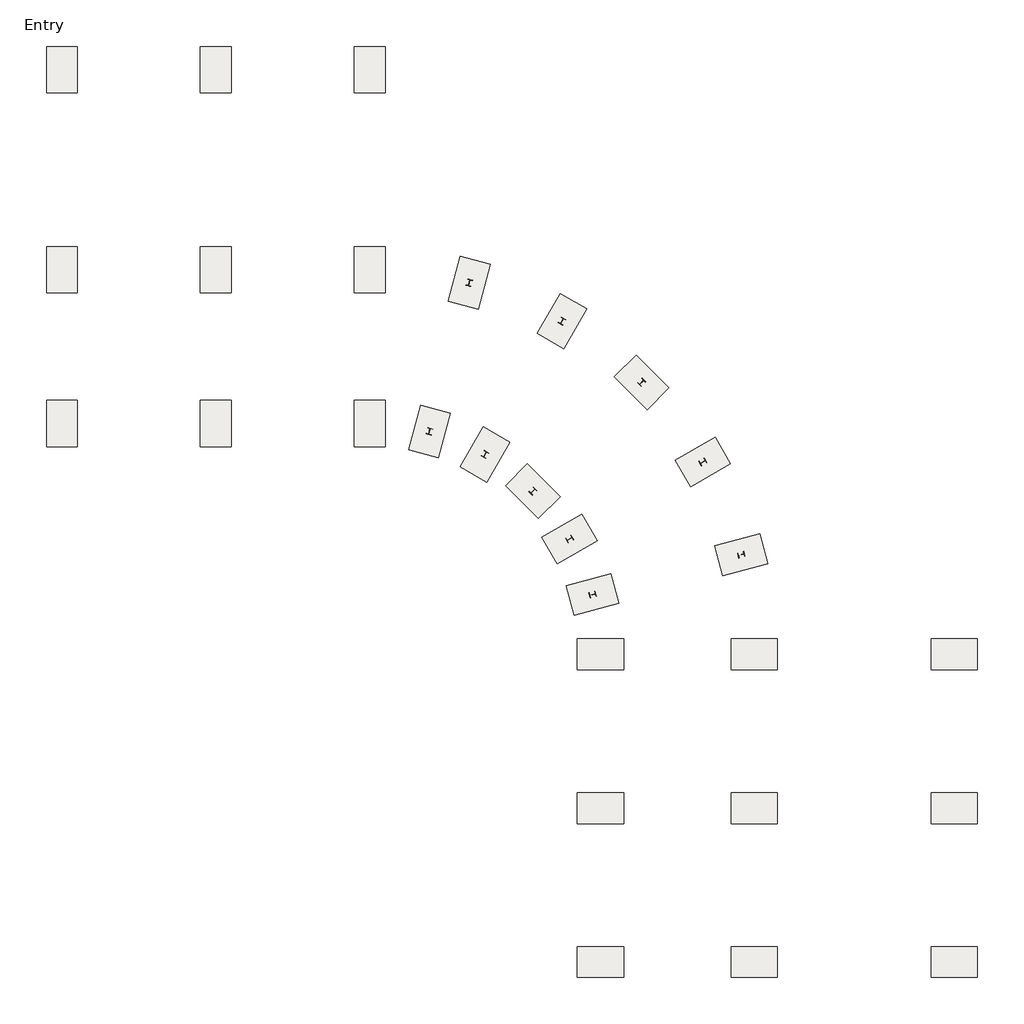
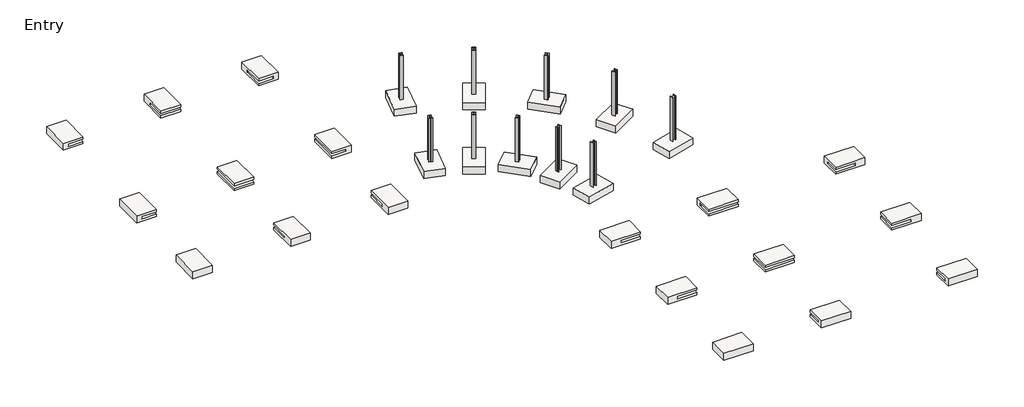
# One storey: 28 slabs, 10 columns.
"""IFC4 building model written with IfcOpenShell, lengths in millimetres."""

import ifcopenshell
import ifcopenshell.guid

model = None  # the IFC model being written
_history = None  # IfcOwnerHistory: only IFC2X3 demands one
_inside = {}  # id of a spatial element -> (the spatial element, [elements in it])
_under = {}  # id of a project, library or spatial element -> (it, [spatial elements below it])
_declared = {}  # id of a project -> (the project, [libraries it declares])
_typed = {}  # id of a type object -> (the type object, [elements of that type])
_made_of = {}  # id of a material, layer set ... -> (it, [elements and type objects made of it])


def new_model(schema):
    """Start an empty IFC model of exactly this schema.

    Asked for "IFC4X3", IfcOpenShell would pick the latest addendum, in which some entities
    have other attributes; the version numbers below select the first issue.
    IFC2X3 requires an IfcOwnerHistory on every rooted entity: one is made here for all.
    """
    global model, _history
    if schema == "IFC4X3":
        model = ifcopenshell.file(schema_version=(4, 3, 0, 0))
    else:
        model = ifcopenshell.file(schema=schema)
    _inside.clear()
    _under.clear()
    _declared.clear()
    _typed.clear()
    _made_of.clear()
    _history = None
    if model.schema == "IFC2X3":
        org = make("IfcOrganization", Name="unknown")
        user = make(
            "IfcPersonAndOrganization",
            ThePerson=make("IfcPerson", FamilyName="unknown"),
            TheOrganization=org,
        )
        app = make(
            "IfcApplication",
            ApplicationDeveloper=org,
            Version="unknown",
            ApplicationFullName="unknown",
            ApplicationIdentifier="unknown",
        )
        _history = make(
            "IfcOwnerHistory",
            OwningUser=user,
            OwningApplication=app,
            ChangeAction="ADDED",
            CreationDate=0,
        )
    return model


def make(cls, **values):
    """One entity of the class cls with the attributes given. An attribute that is None is left unset."""
    return model.create_entity(
        cls, **{name: value for name, value in values.items() if value is not None}
    )


def rooted(cls, **values):
    """An entity with a GlobalId (a new one), such as an element, a storey or a relation."""
    return make(cls, GlobalId=ifcopenshell.guid.new(), OwnerHistory=_history, **values)


def si_unit(unit_type, name, prefix=None):
    """IfcSIUnit, for example si_unit("LENGTHUNIT", "METRE", prefix="MILLI")."""
    return make("IfcSIUnit", UnitType=unit_type, Prefix=prefix, Name=name)


def assignment(units):
    """IfcUnitAssignment: the units of a project."""
    return None if units is None else make("IfcUnitAssignment", Units=units)


def point(xyz):
    """IfcCartesianPoint."""
    return None if xyz is None else make("IfcCartesianPoint", Coordinates=xyz)


def direction(xyz):
    """IfcDirection."""
    return None if xyz is None else make("IfcDirection", DirectionRatios=xyz)


def frame(location, z_axis=None, x_axis=None):
    """IfcAxis2Placement3D, a coordinate frame: its origin and axes. An axis left out is left unset."""
    return make(
        "IfcAxis2Placement3D",
        Location=point(location),
        Axis=direction(z_axis),
        RefDirection=direction(x_axis),
    )


def frame_2d(location, x_axis=None):
    """IfcAxis2Placement2D, a coordinate frame in the plane: its origin and x axis."""
    return make(
        "IfcAxis2Placement2D", Location=point(location), RefDirection=direction(x_axis)
    )


def origin():
    """The frame at (0, 0, 0) with its axes left unset."""
    return frame((0.0, 0.0, 0.0))


def origin_with_axes():
    """The frame at (0, 0, 0) with the z axis (0, 0, 1) and the x axis (1, 0, 0) written out."""
    return frame((0.0, 0.0, 0.0), z_axis=(0.0, 0.0, 1.0), x_axis=(1.0, 0.0, 0.0))


def place(relative_to, where):
    """IfcLocalPlacement: puts the frame where relative to a parent placement (None: the world)."""
    return make(
        "IfcLocalPlacement", PlacementRelTo=relative_to, RelativePlacement=where
    )


def context(
    kind, dimensions, precision=None, world=None, true_north=None, identifier=None
):
    """IfcGeometricRepresentationContext, for example the 3D "Model" context."""
    return make(
        "IfcGeometricRepresentationContext",
        ContextIdentifier=identifier,
        ContextType=kind,
        CoordinateSpaceDimension=dimensions,
        Precision=precision,
        WorldCoordinateSystem=world,
        TrueNorth=true_north,
    )


def project(units=None, contexts=None):
    """IfcProject with its units and contexts."""
    return rooted(
        "IfcProject",
        Name="project",
        RepresentationContexts=contexts,
        UnitsInContext=assignment(units),
    )


def spatial(cls, under=None, at=None, **own):
    """A site, building, storey or space (cls), placed at a placement, below another one or the project."""
    s = rooted(cls, ObjectPlacement=at, **own)
    if under is not None:
        _under.setdefault(under.id(), (under, []))[1].append(s)
    return s


def polyline(points):
    """IfcPolyline through the points."""
    return make("IfcPolyline", Points=[point(p) for p in points])


def circle_curve(where, radius):
    """IfcCircle in the frame where."""
    return make("IfcCircle", Position=where, Radius=radius)


def trimmed(basis, trim1, trim2, sense, master):
    """IfcTrimmedCurve: the piece of a basis curve between two trims."""
    return make(
        "IfcTrimmedCurve",
        BasisCurve=basis,
        Trim1=trim1,
        Trim2=trim2,
        SenseAgreement=sense,
        MasterRepresentation=master,
    )


def segment(curve, same_sense, transition):
    """IfcCompositeCurveSegment."""
    return make(
        "IfcCompositeCurveSegment",
        Transition=transition,
        SameSense=same_sense,
        ParentCurve=curve,
    )


def composite_curve(segments, self_intersect=None):
    """IfcCompositeCurve: segments joined end to end."""
    return make("IfcCompositeCurve", Segments=segments, SelfIntersect=self_intersect)


def outline(outer, holes=None, kind="AREA"):
    """IfcArbitraryClosedProfileDef: a profile drawn as a closed curve; with holes, ...WithVoids."""
    if holes is None:
        return make("IfcArbitraryClosedProfileDef", ProfileType=kind, OuterCurve=outer)
    return make(
        "IfcArbitraryProfileDefWithVoids",
        ProfileType=kind,
        OuterCurve=outer,
        InnerCurves=holes,
    )


def extrude(swept, where, along, depth):
    """IfcExtrudedAreaSolid: the profile swept, set in the frame where, extruded along a direction by depth."""
    return make(
        "IfcExtrudedAreaSolid",
        SweptArea=swept,
        Position=where,
        ExtrudedDirection=direction(along),
        Depth=depth,
    )


def faces_of(points, faces, orient=None, outer=None):
    """IfcFace entities. A face is a list of loops; a loop is a list of indices into points, from 0.

    orient and outer hold one flag for each loop. By default every Orientation is true, the
    first loop of a face is its IfcFaceOuterBound and the others are IfcFaceBound.
    """
    made = []
    for i, loops in enumerate(faces):
        bounds = []
        for j, loop in enumerate(loops):
            is_outer = j == 0 if outer is None else outer[i][j]
            bounds.append(
                make(
                    "IfcFaceOuterBound" if is_outer else "IfcFaceBound",
                    Bound=make("IfcPolyLoop", Polygon=[points[k] for k in loop]),
                    Orientation=True if orient is None else orient[i][j],
                )
            )
        made.append(make("IfcFace", Bounds=bounds))
    return made


def faceted_brep(points, faces, orient=None, outer=None, voids=None):
    """IfcFacetedBrep: a solid bounded by flat faces; with voids (closed shells), ...WithVoids."""
    shared = [point(p) for p in points]
    hull = make("IfcClosedShell", CfsFaces=faces_of(shared, faces, orient, outer))
    if voids is None:
        return make("IfcFacetedBrep", Outer=hull)
    return make(
        "IfcFacetedBrepWithVoids",
        Outer=hull,
        Voids=[
            make(cls, CfsFaces=faces_of(shared, fs, o, b)) for cls, fs, o, b in voids
        ],
    )


def shape(context_of_items, identifier, shape_type, items):
    """IfcShapeRepresentation: the items that make up one representation, for example the "Body"."""
    return make(
        "IfcShapeRepresentation",
        ContextOfItems=context_of_items,
        RepresentationIdentifier=identifier,
        RepresentationType=shape_type,
        Items=items,
    )


def source(mapping_origin, context_of_items, identifier, shape_type, items):
    """IfcRepresentationMap: a shape defined once, which mapped items show again and again."""
    return make(
        "IfcRepresentationMap",
        MappingOrigin=mapping_origin,
        MappedRepresentation=shape(context_of_items, identifier, shape_type, items),
    )


def transform(
    local_origin,
    x_axis=None,
    y_axis=None,
    z_axis=None,
    scale=None,
    scale2=None,
    scale3=None,
    uniform=True,
):
    """IfcCartesianTransformationOperator3D, or its non-uniform kind. x_axis, y_axis, z_axis: its Axis1, 2, 3."""
    if uniform:
        return make(
            "IfcCartesianTransformationOperator3D",
            Axis1=direction(x_axis),
            Axis2=direction(y_axis),
            LocalOrigin=point(local_origin),
            Scale=scale,
            Axis3=direction(z_axis),
        )
    return make(
        "IfcCartesianTransformationOperator3DnonUniform",
        Axis1=direction(x_axis),
        Axis2=direction(y_axis),
        LocalOrigin=point(local_origin),
        Scale=scale,
        Axis3=direction(z_axis),
        Scale2=scale2,
        Scale3=scale3,
    )


def mapped(mapping_source, mapping_target):
    """IfcMappedItem: shows the shape of a source again, moved by a transform."""
    return make(
        "IfcMappedItem", MappingSource=mapping_source, MappingTarget=mapping_target
    )


def made_of(thing, what):
    """Note that an element or type object is made of a material, layer set ...; save() writes the relation."""
    if what is not None:
        _made_of.setdefault(what.id(), (what, []))[1].append(thing)
    return thing


def element(
    cls,
    number,
    at=None,
    inside=None,
    cuts=None,
    type_object=None,
    material=None,
    context=None,
    identifier="Body",
    shape_type=None,
    held_by="IfcProductDefinitionShape",
    body=None,
    shapes=None,
    **own,
):
    """One element of the class cls, such as IfcWall. Its Tag is "e" and its number.

    at: its placement. inside: the storey or other place that contains it. cuts: it is an
    opening in that element (IfcRelVoidsElement). A single representation is given by context,
    identifier, shape_type and body (its items); several are given by shapes. held_by: the class
    of the entity that holds the representations. save() writes the other relations.
    """
    e = rooted(cls, Tag="e%d" % number, ObjectPlacement=at, **own)
    if body is not None:
        shapes = [shape(context, identifier, shape_type, body)]
    if shapes is not None:
        e.Representation = make(held_by, Representations=shapes)
    if inside is not None:
        _inside.setdefault(inside.id(), (inside, []))[1].append(e)
    if cuts is not None:
        rooted(
            "IfcRelVoidsElement", RelatingBuildingElement=cuts, RelatedOpeningElement=e
        )
    if type_object is not None:
        _typed.setdefault(type_object.id(), (type_object, []))[1].append(e)
    return made_of(e, material)


def aggregate(whole, parts):
    """IfcRelAggregates: a whole, such as a stair, and the parts it consists of."""
    return rooted("IfcRelAggregates", RelatingObject=whole, RelatedObjects=parts)


def save(model, path):
    """Write the relations noted so far, then the file.

    IfcRelAggregates (storeys below a building ...), IfcRelContainedInSpatialStructure (elements
    in a storey), IfcRelDefinesByType, IfcRelAssociatesMaterial and IfcRelDeclares: one each for
    every whole, place, type object, material and project.
    """
    for whole, parts in _under.values():
        aggregate(whole, parts)
    for where, things in _inside.values():
        rooted(
            "IfcRelContainedInSpatialStructure",
            RelatedElements=things,
            RelatingStructure=where,
        )
    for kind, things in _typed.values():
        rooted("IfcRelDefinesByType", RelatedObjects=things, RelatingType=kind)
    for what, things in _made_of.values():
        rooted("IfcRelAssociatesMaterial", RelatedObjects=things, RelatingMaterial=what)
    for by, libraries in _declared.values():
        rooted("IfcRelDeclares", RelatingContext=by, RelatedDefinitions=libraries)
    model.write(path)


def w_shapes_column_w10x33_4bcec04c(model_context):
    return source(origin(), model_context, "Body", "SweptSolid", [
        extrude(outline(composite_curve([segment(polyline([(101.092, 123.571), (101.092, 112.522), (16.383, 112.522)]), True, "CONTINUOUS"), segment(trimmed(circle_curve(frame_2d((16.383, 99.822)), 12.7), [point((16.383, 112.522))], [point((3.683, 99.822))], True, "CARTESIAN"), True, "CONTINUOUS"), segment(polyline([(3.683, 99.822), (3.683, -99.822)]), True, "CONTINUOUS"), segment(trimmed(circle_curve(frame_2d((16.383, -99.822)), 12.7), [point((3.683, -99.822))], [point((16.383, -112.522))], True, "CARTESIAN"), True, "CONTINUOUS"), segment(polyline([(16.383, -112.522), (101.092, -112.522), (101.092, -123.571), (-101.092, -123.571), (-101.092, -112.522), (-16.383, -112.522)]), True, "CONTINUOUS"), segment(trimmed(circle_curve(frame_2d((-16.383, -99.822)), 12.7), [point((-16.383, -112.522))], [point((-3.683, -99.822))], True, "CARTESIAN"), True, "CONTINUOUS"), segment(polyline([(-3.683, -99.822), (-3.683, 99.822)]), True, "CONTINUOUS"), segment(trimmed(circle_curve(frame_2d((-16.383, 99.822)), 12.7), [point((-3.683, 99.822))], [point((-16.383, 112.522))], True, "CARTESIAN"), True, "CONTINUOUS"), segment(polyline([(-16.383, 112.522), (-101.092, 112.522), (-101.092, 123.571), (101.092, 123.571)]), True, "CONTINUOUS")], self_intersect=False)), origin_with_axes(), (0.0, 0.0, 1.0), 2921.0),
    ])


def slab_5ba74754(model_context):
    return source(origin(), model_context, "Body", "SweptSolid", [
        extrude(outline(polyline([(609.6, 914.4), (609.6, -914.4), (-609.6, -914.4), (-609.6, 914.4), (609.6, 914.4)])), frame((0.0, 0.0, -457.2), z_axis=(0.0, 0.0, 1.0), x_axis=(1.0, 0.0, 0.0)), (0.0, 0.0, 1.0), 457.2),
    ])


model = new_model("IFC4")

# Units and contexts
model_context = context("Model", 3, world=origin())
ifc_project = project(units=[si_unit("LENGTHUNIT", "METRE", prefix="MILLI")], contexts=[model_context])

# Site, building, storey
site = spatial("IfcSite", under=ifc_project)
building = spatial("IfcBuilding", under=site)
storey = spatial("IfcBuildingStorey", under=building, Name="Entry", Elevation=0.0)

# Columns
placement = place(None, origin())
w_shapes_column_w10x33_shape = w_shapes_column_w10x33_4bcec04c(model_context)
element("IfcColumn", 1, ObjectType="W Shapes-Column : W10X33", at=placement, inside=storey, context=model_context, shape_type="MappedRepresentation", body=[
    mapped(w_shapes_column_w10x33_shape, transform((-17670.6099902, -10490.6552287, 0.0), x_axis=(-0.25881904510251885, 0.9659258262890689, 0.0), y_axis=(-0.9659258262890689, -0.25881904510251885, 0.0), z_axis=(0.0, 0.0, 1.0))),
])
element("IfcColumn", 2, ObjectType="W Shapes-Column : W10X33", at=placement, inside=storey, context=model_context, shape_type="MappedRepresentation", body=[
    mapped(w_shapes_column_w10x33_shape, transform((-11782.3261532, -8912.8943298, 0.0), x_axis=(-0.25881904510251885, 0.9659258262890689, 0.0), y_axis=(-0.9659258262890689, -0.25881904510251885, 0.0), z_axis=(0.0, 0.0, 1.0))),
])
element("IfcColumn", 3, ObjectType="W Shapes-Column : W10X33", at=placement, inside=storey, context=model_context, shape_type="MappedRepresentation", body=[
    mapped(w_shapes_column_w10x33_shape, transform((-18584.0994536, -8285.2965771, 0.0), x_axis=(-0.4999999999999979, 0.8660254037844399, 0.0), y_axis=(-0.8660254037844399, -0.4999999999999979, 0.0), z_axis=(0.0, 0.0, 1.0))),
])
element("IfcColumn", 4, ObjectType="W Shapes-Column : W10X33", at=placement, inside=storey, context=model_context, shape_type="MappedRepresentation", body=[
    mapped(w_shapes_column_w10x33_shape, transform((-13304.8085921, -5237.2965771, 0.0), x_axis=(-0.4999999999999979, 0.8660254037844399, 0.0), y_axis=(-0.8660254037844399, -0.4999999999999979, 0.0), z_axis=(0.0, 0.0, 1.0))),
])
element("IfcColumn", 5, ObjectType="W Shapes-Column : W10X33", at=placement, inside=storey, context=model_context, shape_type="MappedRepresentation", body=[
    mapped(w_shapes_column_w10x33_shape, transform((-20037.2513386, -6391.5121699, 0.0), x_axis=(0.7071067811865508, -0.7071067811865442, 0.0), y_axis=(0.7071067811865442, 0.7071067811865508, 0.0), z_axis=(0.0, 0.0, 1.0))),
])
element("IfcColumn", 6, ObjectType="W Shapes-Column : W10X33", at=placement, inside=storey, context=model_context, shape_type="MappedRepresentation", body=[
    mapped(w_shapes_column_w10x33_shape, transform((-15726.7284005, -2080.9892318, 0.0), x_axis=(0.7071067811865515, -0.7071067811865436, 0.0), y_axis=(0.7071067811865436, 0.7071067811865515, 0.0), z_axis=(0.0, 0.0, 1.0))),
])
element("IfcColumn", 7, ObjectType="W Shapes-Column : W10X33", at=placement, inside=storey, context=model_context, shape_type="MappedRepresentation", body=[
    mapped(w_shapes_column_w10x33_shape, transform((-21931.0357458, -4938.3602849, 0.0), x_axis=(0.8660254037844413, -0.49999999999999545, 0.0), y_axis=(0.49999999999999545, 0.8660254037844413, 0.0), z_axis=(0.0, 0.0, 1.0))),
])
element("IfcColumn", 8, ObjectType="W Shapes-Column : W10X33", at=placement, inside=storey, context=model_context, shape_type="MappedRepresentation", body=[
    mapped(w_shapes_column_w10x33_shape, transform((-18883.0357458, 340.9305766, 0.0), x_axis=(0.8660254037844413, -0.49999999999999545, 0.0), y_axis=(0.49999999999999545, 0.8660254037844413, 0.0), z_axis=(0.0, 0.0, 1.0))),
])
element("IfcColumn", 9, ObjectType="W Shapes-Column : W10X33", at=placement, inside=storey, context=model_context, shape_type="MappedRepresentation", body=[
    mapped(w_shapes_column_w10x33_shape, transform((-24136.3943974, -4024.8708215, 0.0), x_axis=(0.9659258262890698, -0.25881904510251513, 0.0), y_axis=(0.25881904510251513, 0.9659258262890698, 0.0), z_axis=(0.0, 0.0, 1.0))),
])
element("IfcColumn", 10, ObjectType="W Shapes-Column : W10X33", at=placement, inside=storey, context=model_context, shape_type="MappedRepresentation", body=[
    mapped(w_shapes_column_w10x33_shape, transform((-22558.6334985, 1863.4130155, 0.0), x_axis=(0.9659258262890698, -0.25881904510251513, 0.0), y_axis=(0.25881904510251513, 0.9659258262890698, 0.0), z_axis=(0.0, 0.0, 1.0))),
])

# Slabs
element("IfcSlab", 11, ObjectType="Footing-Rectangular : 72\" x 48\" x 18\"", at=placement, inside=storey, context=model_context, shape_type="Brep", body=[
    faceted_brep([(-25893.4357458, 11221.9034229, -1676.4), (-27112.6357458, 11221.9034229, -1676.4), (-27112.6357458, 9393.1034229, -1676.4), (-25893.4357458, 9393.1034229, -1676.4), (-25893.4357458, 11221.9034229, -2133.6), (-25893.4357458, 9393.1034229, -2133.6), (-27112.6357458, 9393.1034229, -2133.6), (-27112.6357458, 11221.9034229, -2133.6), (-27112.6357458, 9393.1034229, -1981.2), (-27112.6357458, 10612.3034229, -1981.2), (-27112.6357458, 10612.3034229, -1828.8), (-27112.6357458, 9393.1034229, -1828.8), (-26198.2357458, 9393.1034229, -1828.8), (-26198.2357458, 9393.1034229, -1981.2), (-26198.2357458, 10612.3034229, -1981.2), (-26198.2357458, 10612.3034229, -1828.8)], [[[0, 1, 2, 3]], [[4, 5, 6, 7]], [[1, 0, 4, 7]], [[2, 1, 7, 6, 8, 9, 10, 11]], [[3, 2, 11, 12, 13, 8, 6, 5]], [[0, 3, 5, 4]], [[14, 9, 8, 13]], [[15, 12, 11, 10]], [[15, 14, 13, 12]], [[14, 15, 10, 9]]]),
])
element("IfcSlab", 12, ObjectType="Footing-Rectangular : 72\" x 48\" x 18\"", at=placement, inside=storey, context=model_context, shape_type="SweptSolid", body=[
    extrude(outline(polyline([(9393.1034229, -1676.4), (11221.9034229, -1676.4), (11221.9034229, -2133.6), (9393.1034229, -2133.6), (9393.1034229, -1981.2), (10612.3034229, -1981.2), (10612.3034229, -1828.8), (9393.1034229, -1828.8), (9393.1034229, -1676.4)])), frame((-33208.6357458, 0.0, 0.0), z_axis=(1.0, 0.0, 0.0), x_axis=(0.0, 1.0, 0.0)), (0.0, 0.0, 1.0), 1219.2),
])
element("IfcSlab", 13, ObjectType="Footing-Rectangular : 72\" x 48\" x 18\"", at=placement, inside=storey, context=model_context, shape_type="Brep", body=[
    faceted_brep([(-38085.4357458, 11221.9034229, -1676.4), (-39304.6357458, 11221.9034229, -1676.4), (-39304.6357458, 9393.1034229, -1676.4), (-38085.4357458, 9393.1034229, -1676.4), (-38085.4357458, 11221.9034229, -2133.6), (-38085.4357458, 9393.1034229, -2133.6), (-39304.6357458, 9393.1034229, -2133.6), (-39304.6357458, 11221.9034229, -2133.6), (-38085.4357458, 9393.1034229, -1981.2), (-38999.8357458, 9393.1034229, -1981.2), (-38999.8357458, 9393.1034229, -1828.8), (-38085.4357458, 9393.1034229, -1828.8), (-38085.4357458, 10612.3034229, -1828.8), (-38085.4357458, 10612.3034229, -1981.2), (-38999.8357458, 10612.3034229, -1981.2), (-38999.8357458, 10612.3034229, -1828.8)], [[[0, 1, 2, 3]], [[4, 5, 6, 7]], [[1, 0, 4, 7]], [[2, 1, 7, 6]], [[3, 2, 6, 5, 8, 9, 10, 11]], [[0, 3, 11, 12, 13, 8, 5, 4]], [[13, 14, 9, 8]], [[10, 15, 12, 11]], [[14, 15, 10, 9]], [[15, 14, 13, 12]]]),
])
element("IfcSlab", 14, ObjectType="Footing-Rectangular : 72\" x 48\" x 18\"", at=placement, inside=storey, context=model_context, shape_type="Brep", body=[
    faceted_brep([(-25893.4357458, -2798.8965771, -1676.4), (-27112.6357458, -2798.8965771, -1676.4), (-27112.6357458, -4627.6965771, -1676.4), (-25893.4357458, -4627.6965771, -1676.4), (-25893.4357458, -2798.8965771, -2133.6), (-25893.4357458, -4627.6965771, -2133.6), (-27112.6357458, -4627.6965771, -2133.6), (-27112.6357458, -2798.8965771, -2133.6), (-27112.6357458, -2798.8965771, -1981.2), (-26198.2357458, -2798.8965771, -1981.2), (-26198.2357458, -2798.8965771, -1828.8), (-27112.6357458, -2798.8965771, -1828.8), (-27112.6357458, -4018.0965771, -1828.8), (-27112.6357458, -4018.0965771, -1981.2), (-26198.2357458, -4018.0965771, -1981.2), (-26198.2357458, -4018.0965771, -1828.8)], [[[0, 1, 2, 3]], [[4, 5, 6, 7]], [[1, 0, 4, 7, 8, 9, 10, 11]], [[2, 1, 11, 12, 13, 8, 7, 6]], [[3, 2, 6, 5]], [[0, 3, 5, 4]], [[13, 14, 9, 8]], [[10, 15, 12, 11]], [[14, 15, 10, 9]], [[15, 14, 13, 12]]]),
])
element("IfcSlab", 15, ObjectType="Footing-Rectangular : 72\" x 48\" x 18\"", at=placement, inside=storey, context=model_context, shape_type="SweptSolid", body=[
    extrude(outline(polyline([(-1676.4, -25893.4357458), (-1676.4, -27112.6357458), (-1828.8, -27112.6357458), (-1828.8, -26198.2357458), (-1981.2, -26198.2357458), (-1981.2, -27112.6357458), (-2133.6, -27112.6357458), (-2133.6, -25893.4357458), (-1676.4, -25893.4357458)])), frame((0.0, 1468.3034229, 0.0), z_axis=(0.0, 1.0, 0.0), x_axis=(0.0, 0.0, 1.0)), (0.0, 0.0, 1.0), 1828.8),
])
element("IfcSlab", 16, ObjectType="Footing-Rectangular : 72\" x 48\" x 18\"", at=placement, inside=storey, context=model_context, shape_type="SweptSolid", body=[
    extrude(outline(polyline([(-4627.6965771, -1676.4), (-2798.8965771, -1676.4), (-2798.8965771, -1828.8), (-4018.0965771, -1828.8), (-4018.0965771, -1981.2), (-2798.8965771, -1981.2), (-2798.8965771, -2133.6), (-4627.6965771, -2133.6), (-4627.6965771, -1676.4)])), frame((-33208.6357458, 0.0, 0.0), z_axis=(1.0, 0.0, 0.0), x_axis=(0.0, 1.0, 0.0)), (0.0, 0.0, 1.0), 1219.2),
])
element("IfcSlab", 17, ObjectType="Footing-Rectangular : 72\" x 48\" x 18\"", at=placement, inside=storey, context=model_context, shape_type="Brep", body=[
    faceted_brep([(-39304.6357458, -4627.6965771, -1676.4), (-38085.4357458, -4627.6965771, -1676.4), (-38085.4357458, -2798.8965771, -1676.4), (-39304.6357458, -2798.8965771, -1676.4), (-39304.6357458, -4627.6965771, -2133.6), (-39304.6357458, -2798.8965771, -2133.6), (-38085.4357458, -2798.8965771, -2133.6), (-38085.4357458, -4627.6965771, -2133.6), (-38085.4357458, -2798.8965771, -1981.2), (-38085.4357458, -4018.0965771, -1981.2), (-38085.4357458, -4018.0965771, -1828.8), (-38085.4357458, -2798.8965771, -1828.8), (-38999.8357458, -2798.8965771, -1828.8), (-38999.8357458, -2798.8965771, -1981.2), (-38999.8357458, -4018.0965771, -1981.2), (-38999.8357458, -4018.0965771, -1828.8)], [[[0, 1, 2, 3]], [[4, 5, 6, 7]], [[1, 0, 4, 7]], [[2, 1, 7, 6, 8, 9, 10, 11]], [[3, 2, 11, 12, 13, 8, 6, 5]], [[0, 3, 5, 4]], [[13, 14, 9, 8]], [[10, 15, 12, 11]], [[14, 15, 10, 9]], [[15, 14, 13, 12]]]),
])
element("IfcSlab", 18, ObjectType="Footing-Rectangular : 72\" x 48\" x 18\"", at=placement, inside=storey, context=model_context, shape_type="SweptSolid", body=[
    extrude(outline(polyline([(-31989.4357458, 1468.3034229), (-33208.6357458, 1468.3034229), (-33208.6357458, 3297.1034229), (-31989.4357458, 3297.1034229), (-31989.4357458, 1468.3034229)])), frame((0.0, 0.0, -1828.8), z_axis=(0.0, 0.0, 1.0), x_axis=(1.0, 0.0, 0.0)), (0.0, 0.0, 1.0), 152.4),
    extrude(outline(polyline([(-33208.6357458, 1468.3034229), (-33208.6357458, 3297.1034229), (-31989.4357458, 3297.1034229), (-31989.4357458, 1468.3034229), (-33208.6357458, 1468.3034229)])), frame((0.0, 0.0, -2133.6), z_axis=(0.0, 0.0, 1.0), x_axis=(1.0, 0.0, 0.0)), (0.0, 0.0, 1.0), 152.4),
])
element("IfcSlab", 19, ObjectType="Footing-Rectangular : 72\" x 48\" x 18\"", at=placement, inside=storey, context=model_context, shape_type="SweptSolid", body=[
    extrude(outline(polyline([(-1676.4, -38085.4357458), (-1676.4, -39304.6357458), (-2133.6, -39304.6357458), (-2133.6, -38085.4357458), (-1981.2, -38085.4357458), (-1981.2, -38999.8357458), (-1828.8, -38999.8357458), (-1828.8, -38085.4357458), (-1676.4, -38085.4357458)])), frame((0.0, 1468.3034229, 0.0), z_axis=(0.0, 1.0, 0.0), x_axis=(0.0, 0.0, 1.0)), (0.0, 0.0, 1.0), 1828.8),
])
element("IfcSlab", 20, ObjectType="Footing-Rectangular : 72\" x 48\" x 18\"", at=placement, inside=storey, context=model_context, shape_type="Brep", body=[
    faceted_brep([(-2423.8357458, -13466.8965771, -1676.4), (-2423.8357458, -12247.6965771, -1676.4), (-4252.6357458, -12247.6965771, -1676.4), (-4252.6357458, -13466.8965771, -1676.4), (-4252.6357458, -12247.6965771, -2133.6), (-2423.8357458, -12247.6965771, -2133.6), (-2423.8357458, -13466.8965771, -2133.6), (-4252.6357458, -13466.8965771, -2133.6), (-4252.6357458, -13466.8965771, -1828.8), (-3033.4357458, -13466.8965771, -1828.8), (-3033.4357458, -13466.8965771, -1981.2), (-4252.6357458, -13466.8965771, -1981.2), (-4252.6357458, -12552.4965771, -1981.2), (-4252.6357458, -12552.4965771, -1828.8), (-3033.4357458, -12552.4965771, -1981.2), (-3033.4357458, -12552.4965771, -1828.8)], [[[0, 1, 2, 3]], [[4, 5, 6, 7]], [[1, 0, 6, 5]], [[0, 3, 8, 9, 10, 11, 7, 6]], [[3, 2, 4, 7, 11, 12, 13, 8]], [[2, 1, 5, 4]], [[14, 12, 11, 10]], [[15, 9, 8, 13]], [[14, 15, 13, 12]], [[15, 14, 10, 9]]]),
])
element("IfcSlab", 21, ObjectType="Footing-Rectangular : 72\" x 48\" x 18\"", at=placement, inside=storey, context=model_context, shape_type="SweptSolid", body=[
    extrude(outline(polyline([(-1676.4, -2423.8357458), (-1676.4, -4252.6357458), (-1828.8, -4252.6357458), (-1828.8, -3033.4357458), (-1981.2, -3033.4357458), (-1981.2, -4252.6357458), (-2133.6, -4252.6357458), (-2133.6, -2423.8357458), (-1676.4, -2423.8357458)])), frame((0.0, -19562.8965771, 0.0), z_axis=(0.0, 1.0, 0.0), x_axis=(0.0, 0.0, 1.0)), (0.0, 0.0, 1.0), 1219.2),
])
element("IfcSlab", 22, ObjectType="Footing-Rectangular : 72\" x 48\" x 18\"", at=placement, inside=storey, context=model_context, shape_type="Brep", body=[
    faceted_brep([(-2423.8357458, -25658.8965771, -1676.4), (-2423.8357458, -24439.6965771, -1676.4), (-4252.6357458, -24439.6965771, -1676.4), (-4252.6357458, -25658.8965771, -1676.4), (-4252.6357458, -24439.6965771, -2133.6), (-2423.8357458, -24439.6965771, -2133.6), (-2423.8357458, -25658.8965771, -2133.6), (-4252.6357458, -25658.8965771, -2133.6), (-4252.6357458, -24439.6965771, -1828.8), (-4252.6357458, -25354.0965771, -1828.8), (-4252.6357458, -25354.0965771, -1981.2), (-4252.6357458, -24439.6965771, -1981.2), (-3033.4357458, -24439.6965771, -1981.2), (-3033.4357458, -24439.6965771, -1828.8), (-3033.4357458, -25354.0965771, -1981.2), (-3033.4357458, -25354.0965771, -1828.8)], [[[0, 1, 2, 3]], [[4, 5, 6, 7]], [[1, 0, 6, 5]], [[0, 3, 7, 6]], [[3, 2, 8, 9, 10, 11, 4, 7]], [[2, 1, 5, 4, 11, 12, 13, 8]], [[10, 14, 12, 11]], [[13, 15, 9, 8]], [[15, 14, 10, 9]], [[14, 15, 13, 12]]]),
])
element("IfcSlab", 23, ObjectType="Footing-Rectangular : 72\" x 48\" x 18\"", at=placement, inside=storey, context=model_context, shape_type="Brep", body=[
    faceted_brep([(-16444.6357458, -13466.8965771, -1676.4), (-16444.6357458, -12247.6965771, -1676.4), (-18273.4357458, -12247.6965771, -1676.4), (-18273.4357458, -13466.8965771, -1676.4), (-18273.4357458, -12247.6965771, -2133.6), (-16444.6357458, -12247.6965771, -2133.6), (-16444.6357458, -13466.8965771, -2133.6), (-18273.4357458, -13466.8965771, -2133.6), (-16444.6357458, -13466.8965771, -1828.8), (-16444.6357458, -12552.4965771, -1828.8), (-16444.6357458, -12552.4965771, -1981.2), (-16444.6357458, -13466.8965771, -1981.2), (-17663.8357458, -13466.8965771, -1981.2), (-17663.8357458, -13466.8965771, -1828.8), (-17663.8357458, -12552.4965771, -1981.2), (-17663.8357458, -12552.4965771, -1828.8)], [[[0, 1, 2, 3]], [[4, 5, 6, 7]], [[1, 0, 8, 9, 10, 11, 6, 5]], [[0, 3, 7, 6, 11, 12, 13, 8]], [[3, 2, 4, 7]], [[2, 1, 5, 4]], [[10, 14, 12, 11]], [[13, 15, 9, 8]], [[15, 14, 10, 9]], [[14, 15, 13, 12]]]),
])
element("IfcSlab", 24, ObjectType="Footing-Rectangular : 72\" x 48\" x 18\"", at=placement, inside=storey, context=model_context, shape_type="SweptSolid", body=[
    extrude(outline(polyline([(-13466.8965771, -1676.4), (-12247.6965771, -1676.4), (-12247.6965771, -2133.6), (-13466.8965771, -2133.6), (-13466.8965771, -1981.2), (-12552.4965771, -1981.2), (-12552.4965771, -1828.8), (-13466.8965771, -1828.8), (-13466.8965771, -1676.4)])), frame((-12177.4357458, 0.0, 0.0), z_axis=(1.0, 0.0, 0.0), x_axis=(0.0, 1.0, 0.0)), (0.0, 0.0, 1.0), 1828.8),
])
element("IfcSlab", 25, ObjectType="Footing-Rectangular : 72\" x 48\" x 18\"", at=placement, inside=storey, context=model_context, shape_type="SweptSolid", body=[
    extrude(outline(polyline([(-1676.4, -16444.6357458), (-1676.4, -18273.4357458), (-2133.6, -18273.4357458), (-2133.6, -16444.6357458), (-1981.2, -16444.6357458), (-1981.2, -17663.8357458), (-1828.8, -17663.8357458), (-1828.8, -16444.6357458), (-1676.4, -16444.6357458)])), frame((0.0, -19562.8965771, 0.0), z_axis=(0.0, 1.0, 0.0), x_axis=(0.0, 0.0, 1.0)), (0.0, 0.0, 1.0), 1219.2),
])
element("IfcSlab", 26, ObjectType="Footing-Rectangular : 72\" x 48\" x 18\"", at=placement, inside=storey, context=model_context, shape_type="Brep", body=[
    faceted_brep([(-18273.4357458, -24439.6965771, -1676.4), (-18273.4357458, -25658.8965771, -1676.4), (-16444.6357458, -25658.8965771, -1676.4), (-16444.6357458, -24439.6965771, -1676.4), (-16444.6357458, -25658.8965771, -2133.6), (-18273.4357458, -25658.8965771, -2133.6), (-18273.4357458, -24439.6965771, -2133.6), (-16444.6357458, -24439.6965771, -2133.6), (-16444.6357458, -24439.6965771, -1828.8), (-17663.8357458, -24439.6965771, -1828.8), (-17663.8357458, -24439.6965771, -1981.2), (-16444.6357458, -24439.6965771, -1981.2), (-16444.6357458, -25354.0965771, -1981.2), (-16444.6357458, -25354.0965771, -1828.8), (-17663.8357458, -25354.0965771, -1981.2), (-17663.8357458, -25354.0965771, -1828.8)], [[[0, 1, 2, 3]], [[4, 5, 6, 7]], [[1, 0, 6, 5]], [[0, 3, 8, 9, 10, 11, 7, 6]], [[3, 2, 4, 7, 11, 12, 13, 8]], [[2, 1, 5, 4]], [[10, 14, 12, 11]], [[13, 15, 9, 8]], [[15, 14, 10, 9]], [[14, 15, 13, 12]]]),
])
element("IfcSlab", 27, ObjectType="Footing-Rectangular : 72\" x 48\" x 18\"", at=placement, inside=storey, context=model_context, shape_type="SweptSolid", body=[
    extrude(outline(polyline([(-12177.4357458, -19562.8965771), (-12177.4357458, -18343.6965771), (-10348.6357458, -18343.6965771), (-10348.6357458, -19562.8965771), (-12177.4357458, -19562.8965771)])), frame((0.0, 0.0, -1828.8), z_axis=(0.0, 0.0, 1.0), x_axis=(1.0, 0.0, 0.0)), (0.0, 0.0, 1.0), 152.4),
    extrude(outline(polyline([(-10348.6357458, -19562.8965771), (-12177.4357458, -19562.8965771), (-12177.4357458, -18343.6965771), (-10348.6357458, -18343.6965771), (-10348.6357458, -19562.8965771)])), frame((0.0, 0.0, -2133.6), z_axis=(0.0, 0.0, 1.0), x_axis=(1.0, 0.0, 0.0)), (0.0, 0.0, 1.0), 152.4),
])
element("IfcSlab", 28, ObjectType="Footing-Rectangular : 72\" x 48\" x 18\"", at=placement, inside=storey, context=model_context, shape_type="SweptSolid", body=[
    extrude(outline(polyline([(-25658.8965771, -1676.4), (-24439.6965771, -1676.4), (-24439.6965771, -1828.8), (-25354.0965771, -1828.8), (-25354.0965771, -1981.2), (-24439.6965771, -1981.2), (-24439.6965771, -2133.6), (-25658.8965771, -2133.6), (-25658.8965771, -1676.4)])), frame((-12177.4357458, 0.0, 0.0), z_axis=(1.0, 0.0, 0.0), x_axis=(0.0, 1.0, 0.0)), (0.0, 0.0, 1.0), 1828.8),
])
slab_shape = slab_5ba74754(model_context)
element("IfcSlab", 29, ObjectType="Footing-Rectangular : 72\" x 48\" x 18\"", at=placement, inside=storey, context=model_context, shape_type="MappedRepresentation", body=[
    mapped(slab_shape, transform((-17670.6099902, -10490.6552287, 0.0), x_axis=(-0.25881904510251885, 0.9659258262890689, 0.0), y_axis=(-0.9659258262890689, -0.25881904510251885, 0.0), z_axis=(0.0, 0.0, 1.0))),
])
element("IfcSlab", 30, ObjectType="Footing-Rectangular : 72\" x 48\" x 18\"", at=placement, inside=storey, context=model_context, shape_type="MappedRepresentation", body=[
    mapped(slab_shape, transform((-18584.0994536, -8285.2965771, 0.0), x_axis=(-0.4999999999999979, 0.8660254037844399, 0.0), y_axis=(-0.8660254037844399, -0.4999999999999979, 0.0), z_axis=(0.0, 0.0, 1.0))),
])
element("IfcSlab", 31, ObjectType="Footing-Rectangular : 72\" x 48\" x 18\"", at=placement, inside=storey, context=model_context, shape_type="MappedRepresentation", body=[
    mapped(slab_shape, transform((-20037.2513386, -6391.5121699, 0.0), x_axis=(0.7071067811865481, 0.7071067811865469, 0.0), y_axis=(-0.7071067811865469, 0.7071067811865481, 0.0), z_axis=(0.0, 0.0, 1.0))),
])
element("IfcSlab", 32, ObjectType="Footing-Rectangular : 72\" x 48\" x 18\"", at=placement, inside=storey, context=model_context, shape_type="MappedRepresentation", body=[
    mapped(slab_shape, transform((-24136.3943974, -4024.8708215, 0.0), x_axis=(0.9659258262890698, -0.25881904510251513, 0.0), y_axis=(0.25881904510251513, 0.9659258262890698, 0.0), z_axis=(0.0, 0.0, 1.0))),
])
element("IfcSlab", 33, ObjectType="Footing-Rectangular : 72\" x 48\" x 18\"", at=placement, inside=storey, context=model_context, shape_type="MappedRepresentation", body=[
    mapped(slab_shape, transform((-21931.0357458, -4938.3602849, 0.0), x_axis=(0.8660254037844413, -0.49999999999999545, 0.0), y_axis=(0.49999999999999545, 0.8660254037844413, 0.0), z_axis=(0.0, 0.0, 1.0))),
])
element("IfcSlab", 34, ObjectType="Footing-Rectangular : 72\" x 48\" x 18\"", at=placement, inside=storey, context=model_context, shape_type="MappedRepresentation", body=[
    mapped(slab_shape, transform((-11782.3261532, -8912.8943298, 0.0), x_axis=(-0.25881904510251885, 0.9659258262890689, 0.0), y_axis=(-0.9659258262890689, -0.25881904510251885, 0.0), z_axis=(0.0, 0.0, 1.0))),
])
element("IfcSlab", 35, ObjectType="Footing-Rectangular : 72\" x 48\" x 18\"", at=placement, inside=storey, context=model_context, shape_type="MappedRepresentation", body=[
    mapped(slab_shape, transform((-13304.8085921, -5237.2965771, 0.0), x_axis=(-0.4999999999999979, 0.8660254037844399, 0.0), y_axis=(-0.8660254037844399, -0.4999999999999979, 0.0), z_axis=(0.0, 0.0, 1.0))),
])
element("IfcSlab", 36, ObjectType="Footing-Rectangular : 72\" x 48\" x 18\"", at=placement, inside=storey, context=model_context, shape_type="MappedRepresentation", body=[
    mapped(slab_shape, transform((-15726.7284005, -2080.9892318, 0.0), x_axis=(0.7071067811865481, 0.7071067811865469, 0.0), y_axis=(-0.7071067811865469, 0.7071067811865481, 0.0), z_axis=(0.0, 0.0, 1.0))),
])
element("IfcSlab", 37, ObjectType="Footing-Rectangular : 72\" x 48\" x 18\"", at=placement, inside=storey, context=model_context, shape_type="MappedRepresentation", body=[
    mapped(slab_shape, transform((-22558.6334985, 1863.4130155, 0.0), x_axis=(0.9659258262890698, -0.25881904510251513, 0.0), y_axis=(0.25881904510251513, 0.9659258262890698, 0.0), z_axis=(0.0, 0.0, 1.0))),
])
element("IfcSlab", 38, ObjectType="Footing-Rectangular : 72\" x 48\" x 18\"", at=placement, inside=storey, context=model_context, shape_type="MappedRepresentation", body=[
    mapped(slab_shape, transform((-18883.0357458, 340.9305766, 0.0), x_axis=(0.8660254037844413, -0.49999999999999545, 0.0), y_axis=(0.49999999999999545, 0.8660254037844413, 0.0), z_axis=(0.0, 0.0, 1.0))),
])

save(model, "model.ifc")
